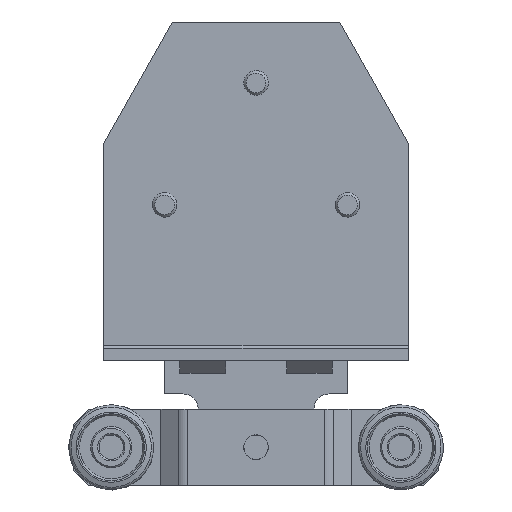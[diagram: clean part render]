
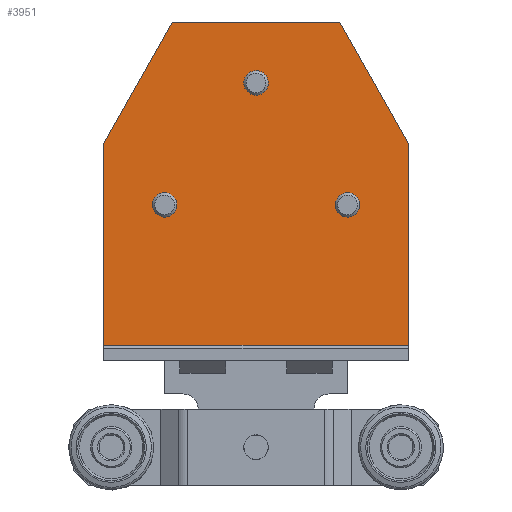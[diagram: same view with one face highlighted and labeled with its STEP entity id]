
A CAD part, top view. The second image highlights one B-rep face of the part: STEP entity #3951.
In plain terms, the highlighted planar face has unit normal (0, 0, 1).
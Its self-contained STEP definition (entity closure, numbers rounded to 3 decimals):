
#230=FACE_BOUND('',#915,.T.);
#231=FACE_BOUND('',#916,.T.);
#232=FACE_BOUND('',#917,.T.);
#404=CIRCLE('',#4260,3.459);
#406=CIRCLE('',#4263,3.459);
#408=CIRCLE('',#4266,3.459);
#639=FACE_OUTER_BOUND('',#914,.T.);
#914=EDGE_LOOP('',(#3167,#3168,#3169,#3170,#3171,#3172));
#915=EDGE_LOOP('',(#3173));
#916=EDGE_LOOP('',(#3174));
#917=EDGE_LOOP('',(#3175));
#1290=LINE('',#6259,#1615);
#1294=LINE('',#6267,#1619);
#1297=LINE('',#6273,#1622);
#1300=LINE('',#6279,#1625);
#1303=LINE('',#6285,#1628);
#1306=LINE('',#6290,#1631);
#1615=VECTOR('',#5092,66.);
#1619=VECTOR('',#5098,100.);
#1622=VECTOR('',#5103,66.);
#1625=VECTOR('',#5108,45.894);
#1628=VECTOR('',#5113,55.);
#1631=VECTOR('',#5118,45.894);
#1895=VERTEX_POINT('',#6244);
#1897=VERTEX_POINT('',#6249);
#1899=VERTEX_POINT('',#6254);
#1900=VERTEX_POINT('',#6257);
#1901=VERTEX_POINT('',#6258);
#1904=VERTEX_POINT('',#6266);
#1906=VERTEX_POINT('',#6272);
#1908=VERTEX_POINT('',#6278);
#1910=VERTEX_POINT('',#6284);
#2347=EDGE_CURVE('',#1895,#1895,#404,.T.);
#2349=EDGE_CURVE('',#1897,#1897,#406,.T.);
#2351=EDGE_CURVE('',#1899,#1899,#408,.T.);
#2352=EDGE_CURVE('',#1900,#1901,#1290,.T.);
#2356=EDGE_CURVE('',#1901,#1904,#1294,.T.);
#2359=EDGE_CURVE('',#1904,#1906,#1297,.T.);
#2362=EDGE_CURVE('',#1906,#1908,#1300,.T.);
#2365=EDGE_CURVE('',#1908,#1910,#1303,.T.);
#2368=EDGE_CURVE('',#1910,#1900,#1306,.T.);
#3167=ORIENTED_EDGE('',*,*,#2352,.F.);
#3168=ORIENTED_EDGE('',*,*,#2368,.F.);
#3169=ORIENTED_EDGE('',*,*,#2365,.F.);
#3170=ORIENTED_EDGE('',*,*,#2362,.F.);
#3171=ORIENTED_EDGE('',*,*,#2359,.F.);
#3172=ORIENTED_EDGE('',*,*,#2356,.F.);
#3173=ORIENTED_EDGE('',*,*,#2347,.T.);
#3174=ORIENTED_EDGE('',*,*,#2349,.T.);
#3175=ORIENTED_EDGE('',*,*,#2351,.T.);
#3761=PLANE('',#4273);
#3951=ADVANCED_FACE('',(#639,#230,#231,#232),#3761,.T.);
#4260=AXIS2_PLACEMENT_3D('',#6245,#5076,#5077);
#4263=AXIS2_PLACEMENT_3D('',#6250,#5082,#5083);
#4266=AXIS2_PLACEMENT_3D('',#6255,#5088,#5089);
#4273=AXIS2_PLACEMENT_3D('',#6292,#5120,#5121);
#5076=DIRECTION('center_axis',(0.,0.,-1.));
#5077=DIRECTION('ref_axis',(1.,0.,0.));
#5082=DIRECTION('center_axis',(0.,0.,-1.));
#5083=DIRECTION('ref_axis',(1.,0.,0.));
#5088=DIRECTION('center_axis',(0.,0.,-1.));
#5089=DIRECTION('ref_axis',(1.,0.,0.));
#5092=DIRECTION('',(0.,1.,0.));
#5098=DIRECTION('',(1.,0.,0.));
#5103=DIRECTION('',(0.,-1.,0.));
#5108=DIRECTION('',(-0.49,-0.872,0.));
#5113=DIRECTION('',(-1.,0.,0.));
#5118=DIRECTION('',(-0.49,0.872,0.));
#5120=DIRECTION('center_axis',(0.,0.,1.));
#5121=DIRECTION('ref_axis',(1.,0.,0.));
#6244=CARTESIAN_POINT('',(3.459,-86.,4.));
#6245=CARTESIAN_POINT('Origin',(0.,-86.,4.));
#6249=CARTESIAN_POINT('',(33.459,-46.,4.));
#6250=CARTESIAN_POINT('Origin',(30.,-46.,4.));
#6254=CARTESIAN_POINT('',(-26.542,-46.,4.));
#6255=CARTESIAN_POINT('Origin',(-30.,-46.,4.));
#6257=CARTESIAN_POINT('',(-50.,-66.,4.));
#6258=CARTESIAN_POINT('',(-50.,0.,4.));
#6259=CARTESIAN_POINT('',(-50.,-66.,4.));
#6266=CARTESIAN_POINT('',(50.,0.,4.));
#6267=CARTESIAN_POINT('',(-50.,0.,4.));
#6272=CARTESIAN_POINT('',(50.,-66.,4.));
#6273=CARTESIAN_POINT('',(50.,0.,4.));
#6278=CARTESIAN_POINT('',(27.5,-106.,4.));
#6279=CARTESIAN_POINT('',(50.,-66.,4.));
#6284=CARTESIAN_POINT('',(-27.5,-106.,4.));
#6285=CARTESIAN_POINT('',(27.5,-106.,4.));
#6290=CARTESIAN_POINT('',(-27.5,-106.,4.));
#6292=CARTESIAN_POINT('Origin',(0.,-47.731,4.));
